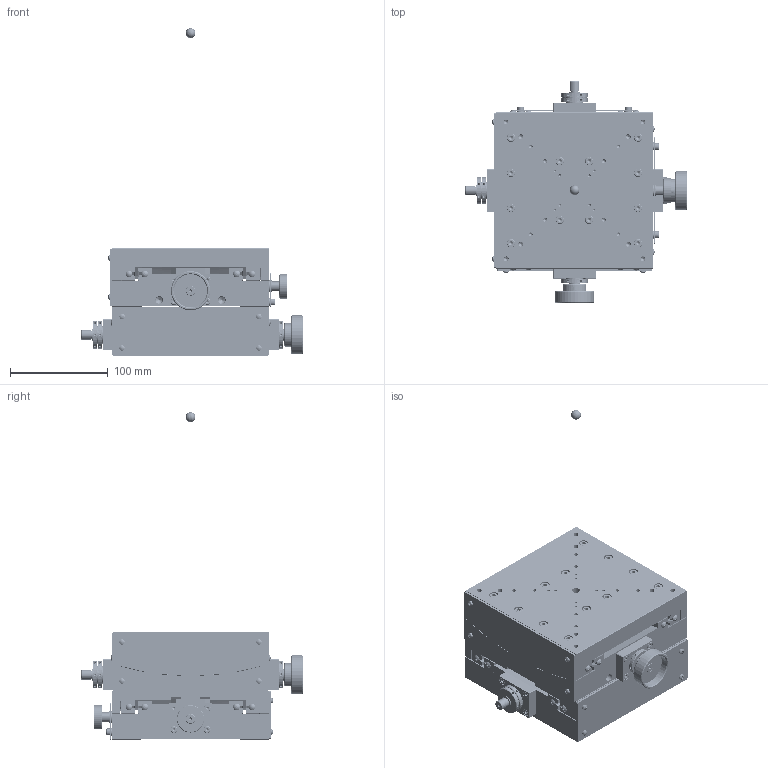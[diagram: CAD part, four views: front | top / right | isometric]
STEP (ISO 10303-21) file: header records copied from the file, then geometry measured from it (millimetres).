
FILE_DESCRIPTION (( 'STEP AP214' ), '1' );
FILE_NAME ('SH16A-RS.STEP', '2009-04-21T01:33:58', ( ' ' ), ( ' ' ), 'SwSTEP 2.0', 'SolidWorks 2008', '' );
FILE_SCHEMA (( 'AUTOMOTIVE_DESIGN' ));
Length unit declared in the file: millimetre
Products named in the file (7): SH16A-RS.sldasm-Part-1; 000200-1010(3D)-1; SH16A-RM(PL); SH16A-RS; SH16A-RT(PL); 000200-1120(3D)-2; 000200-1130(3D)-2
Assembly tree (6 placements, depth 3):
  SH16A-RS
    SH16A-RM(PL)
      000200-1120(3D)-2
      000200-1130(3D)-2
    SH16A-RS.sldasm-Part-1
    SH16A-RT(PL)
      000200-1010(3D)-1
Bounding box: 227 x 227 x 335 mm (x, y, z)
Volume: 2651727.8 mm3; surface area: 472855.1 mm2
Topology: 4 solids, 129 shells, 4794 faces, 10839 edges, 6274 vertices
Faces by surface type: plane 1818, cylinder 1642, cone 1244, sphere 50, torus 40
Entity records: 140643 total; most frequent: CARTESIAN_POINT 33201, DIRECTION 23915, ORIENTED_EDGE 20860, EDGE_CURVE 10430, AXIS2_PLACEMENT_3D 9318, VERTEX_POINT 6271, EDGE_LOOP 5465, VECTOR 5279
